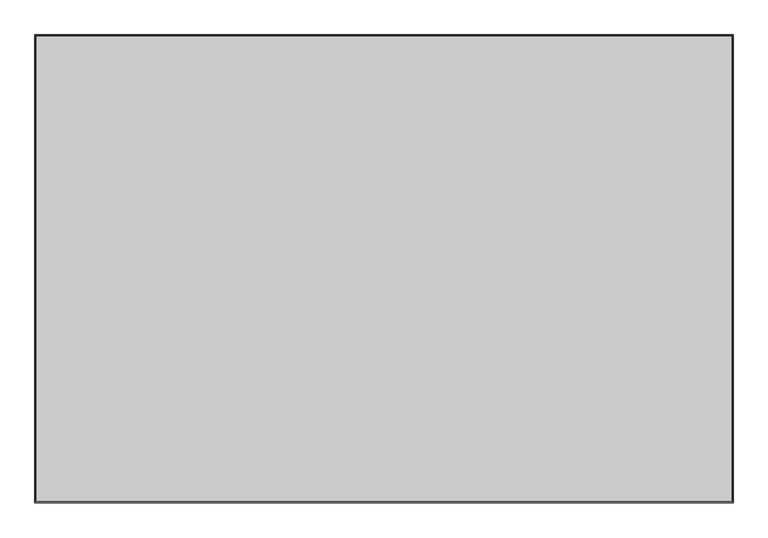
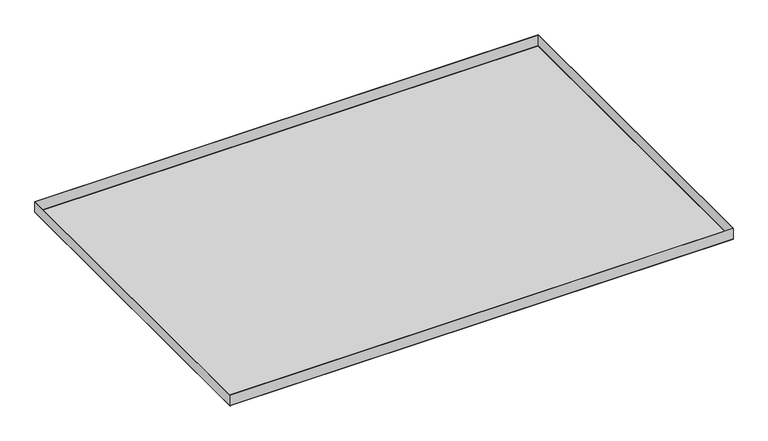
"""IFC4 building model written with IfcOpenShell, lengths in millimetres: proxy geometry, durlum_S7_panel : durlum_S7_panel."""

from ifc_helpers import new_model, si_unit, frame, origin, origin_with_axes, place, context, project, spatial, polyline, outline, extrude, source, transform, mapped, element, save


def generic_models_ab528957(model_context):
    return source(origin(), model_context, "Body", "SweptSolid", [
        extrude(outline(polyline([(898.0, 601.75), (898.0, -601.75), (-898.0, -601.75), (-898.0, 601.75), (898.0, 601.75)]), holes=[polyline([(897.4, 601.15), (-897.4, 601.15), (-897.4, -601.15), (897.4, -601.15), (897.4, 601.15)])]), frame((0.0, 0.0, 0.6), z_axis=(0.0, 0.0, 1.0), x_axis=(1.0, 0.0, 0.0)), (0.0, 0.0, 1.0), 39.4),
        extrude(outline(polyline([(894.0, 597.75), (894.0, -597.75), (-894.0, -597.75), (-894.0, 597.75), (894.0, 597.75)])), frame((0.0, 0.0, 0.6), z_axis=(0.0, 0.0, 1.0), x_axis=(1.0, 0.0, 0.0)), (0.0, 0.0, 1.0), 0.6),
        extrude(outline(polyline([(898.0, 601.75), (898.0, -601.75), (-898.0, -601.75), (-898.0, 601.75), (898.0, 601.75)]), holes=[polyline([(894.0, 597.75), (-894.0, 597.75), (-894.0, -597.75), (894.0, -597.75), (894.0, 597.75)])]), origin_with_axes(), (0.0, 0.0, 1.0), 0.6),
        extrude(outline(polyline([(894.0, 597.75), (894.0, -597.75), (-894.0, -597.75), (-894.0, 597.75), (894.0, 597.75)])), origin_with_axes(), (0.0, 0.0, 1.0), 0.6),
    ])


if __name__ == "__main__":
    model = new_model("IFC4")
    model_context = context("Model", 3, world=origin())
    ifc_project = project(units=[si_unit("LENGTHUNIT", "METRE", prefix="MILLI")], contexts=[model_context])
    site = spatial("IfcSite", under=ifc_project)
    building = spatial("IfcBuilding", under=site)
    placement = place(None, origin())
    generic_models_shape = generic_models_ab528957(model_context)
    element("IfcBuildingElementProxy", 1, Name="durlum_S7_panel : durlum_S7_panel", ObjectType="durlum_S7_panel : durlum_S7_panel", at=placement, inside=building, context=model_context, shape_type="MappedRepresentation", body=[
        mapped(generic_models_shape, transform((0.0, 0.0, 0.0), x_axis=(1.0, 0.0, 0.0), y_axis=(0.0, 1.0, 0.0), z_axis=(0.0, 0.0, 1.0))),
    ])
    save(model, "model.ifc")
